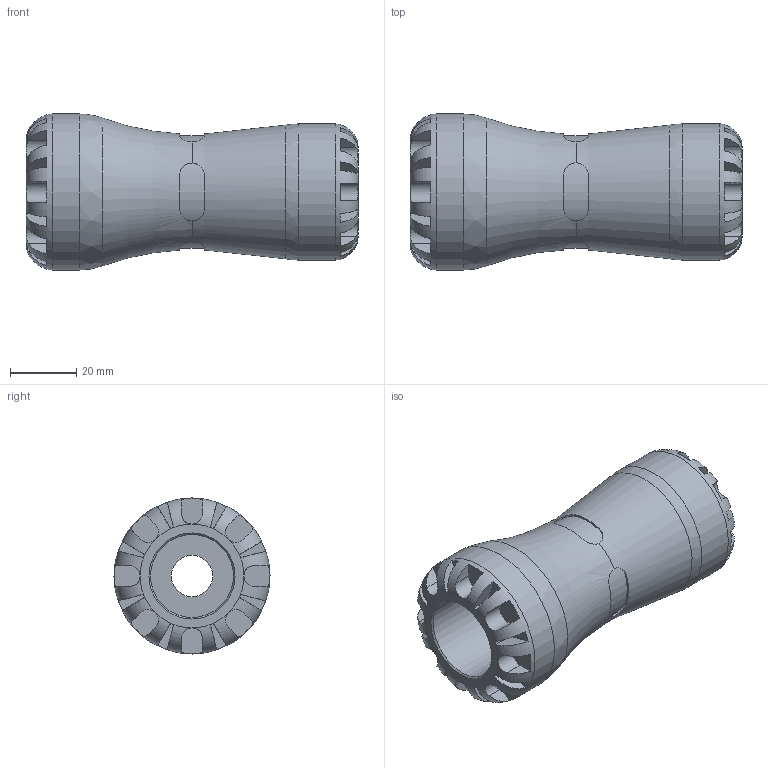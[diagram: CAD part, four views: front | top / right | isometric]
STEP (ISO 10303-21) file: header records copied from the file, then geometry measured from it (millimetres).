
FILE_DESCRIPTION(/* description */ ('PLASSON COPPER PIPE ADAPTOR 25X15 SERIES 1'),/* implementation_level */ '2;1');
FILE_NAME(/* name */ 'C:\Dropbox\KIMPROJECTS-Inventor\99-16-3568-Processing\1001C\1001C0025015_1901C0025015.ipt.stp',/* time_stamp */ '2017-01-22T10:04:47+02:00',/* author */ ('KIM'),/* organization */ (''),/* preprocessor_version */ 'ST-DEVELOPER v15.6',/* originating_system */ 'Autodesk Inventor 2015',/* authorisation */ '');
FILE_SCHEMA (('AUTOMOTIVE_DESIGN { 1 0 10303 214 3 1 1 }'));
Length unit declared in the file: millimetre
Products named in the file (1): 1001C0025015_1901C0025015
Bounding box: 100 x 47 x 47 mm (x, y, z)
Volume: 89730.9 mm3; surface area: 22912.3 mm2
Topology: 1 solids, 1 shells, 165 faces, 431 edges, 270 vertices
Faces by surface type: plane 108, cylinder 49, torus 4, cone 2, bspline 2
Full cylindrical faces by diameter (mm): 12.5 x1, 15 x1, 25 x1, 41 x1, 47 x1
Entity records: 6566 total; most frequent: CARTESIAN_POINT 2520, ORIENTED_EDGE 832, DIRECTION 772, EDGE_CURVE 416, AXIS2_PLACEMENT_3D 314, VERTEX_POINT 266, EDGE_LOOP 180, STYLED_ITEM 166
